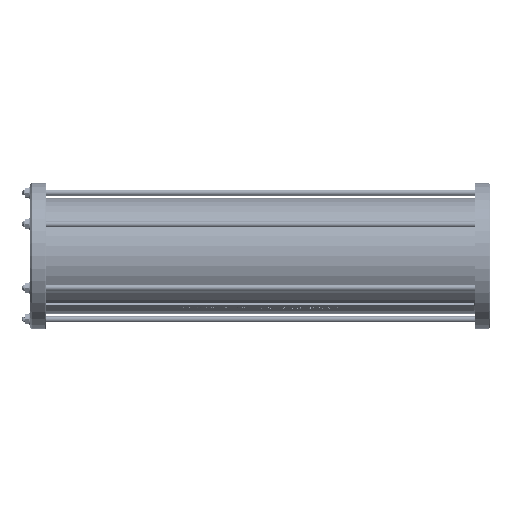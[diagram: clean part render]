
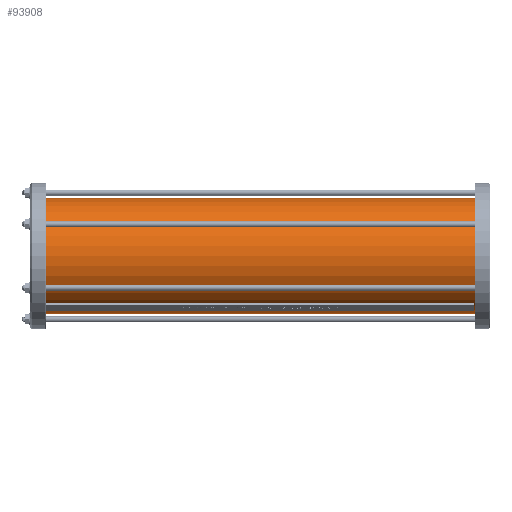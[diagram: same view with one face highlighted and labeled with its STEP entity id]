
A CAD part, left-side view. The second image highlights one B-rep face of the part: STEP entity #93908.
In plain terms, the highlighted cylindrical face has radius 75 mm (diameter 150 mm), a partial arc.
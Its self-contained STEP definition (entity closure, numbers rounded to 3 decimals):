
#4398 = CARTESIAN_POINT ( 'NONE',  ( 0., 584., 75. ) ) ;
#6519 = DIRECTION ( 'NONE',  ( 0., -1., 0. ) ) ;
#10072 = EDGE_CURVE ( 'NONE', #136379, #124690, #105232, .T. ) ;
#17896 = DIRECTION ( 'NONE',  ( 0., 0., -1. ) ) ;
#19511 = CARTESIAN_POINT ( 'NONE',  ( 0., 14., 0. ) ) ;
#28290 = EDGE_CURVE ( 'NONE', #155464, #90176, #67750, .T. ) ;
#36721 = VECTOR ( 'NONE', #137529, 1000. ) ;
#37698 = EDGE_LOOP ( 'NONE', ( #115959, #65834, #130212, #38063 ) ) ;
#38063 = ORIENTED_EDGE ( 'NONE', *, *, #43269, .T. ) ;
#43269 = EDGE_CURVE ( 'NONE', #90176, #124690, #154800, .T. ) ;
#52161 = CARTESIAN_POINT ( 'NONE',  ( 0., 584., -75. ) ) ;
#65834 = ORIENTED_EDGE ( 'NONE', *, *, #66441, .F. ) ;
#66441 = EDGE_CURVE ( 'NONE', #155464, #136379, #152987, .T. ) ;
#67750 = LINE ( 'NONE', #80772, #36721 ) ;
#69194 = DIRECTION ( 'NONE',  ( 0., 0., 1. ) ) ;
#79105 = CARTESIAN_POINT ( 'NONE',  ( 0., 584., 75. ) ) ;
#80772 = CARTESIAN_POINT ( 'NONE',  ( 0., 584., -75. ) ) ;
#82185 = CYLINDRICAL_SURFACE ( 'NONE', #84239, 75. ) ;
#83142 = DIRECTION ( 'NONE',  ( 0., 1., 0. ) ) ;
#84239 = AXIS2_PLACEMENT_3D ( 'NONE', #119275, #143577, #17896 ) ;
#90176 = VERTEX_POINT ( 'NONE', #110673 ) ;
#92411 = AXIS2_PLACEMENT_3D ( 'NONE', #19511, #161811, #132108 ) ;
#93908 = ADVANCED_FACE ( 'NONE', ( #167741 ), #82185, .T. ) ;
#96560 = AXIS2_PLACEMENT_3D ( 'NONE', #126855, #83142, #69194 ) ;
#105232 = LINE ( 'NONE', #79105, #118296 ) ;
#110673 = CARTESIAN_POINT ( 'NONE',  ( 0., 14., -75. ) ) ;
#115959 = ORIENTED_EDGE ( 'NONE', *, *, #10072, .F. ) ;
#118296 = VECTOR ( 'NONE', #6519, 1000. ) ;
#119275 = CARTESIAN_POINT ( 'NONE',  ( 0., 584., 0. ) ) ;
#124690 = VERTEX_POINT ( 'NONE', #178007 ) ;
#126855 = CARTESIAN_POINT ( 'NONE',  ( 0., 584., 0. ) ) ;
#130212 = ORIENTED_EDGE ( 'NONE', *, *, #28290, .T. ) ;
#132108 = DIRECTION ( 'NONE',  ( 0., 0., 1. ) ) ;
#136379 = VERTEX_POINT ( 'NONE', #4398 ) ;
#137529 = DIRECTION ( 'NONE',  ( 0., -1., 0. ) ) ;
#143577 = DIRECTION ( 'NONE',  ( 0., -1., 0. ) ) ;
#152987 = CIRCLE ( 'NONE', #96560, 75. ) ;
#154800 = CIRCLE ( 'NONE', #92411, 75. ) ;
#155464 = VERTEX_POINT ( 'NONE', #52161 ) ;
#161811 = DIRECTION ( 'NONE',  ( 0., 1., 0. ) ) ;
#167741 = FACE_OUTER_BOUND ( 'NONE', #37698, .T. ) ;
#178007 = CARTESIAN_POINT ( 'NONE',  ( 0., 14., 75. ) ) ;
